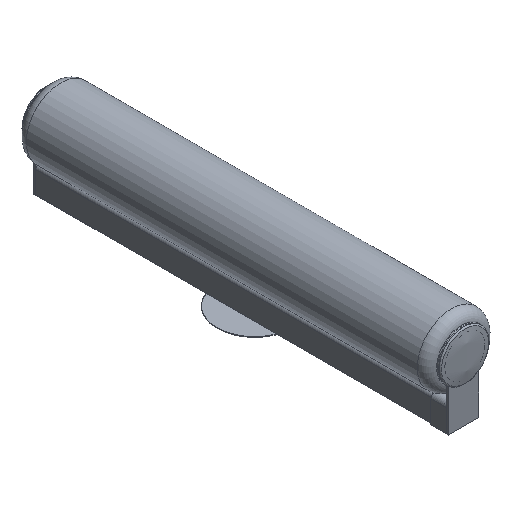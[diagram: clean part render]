
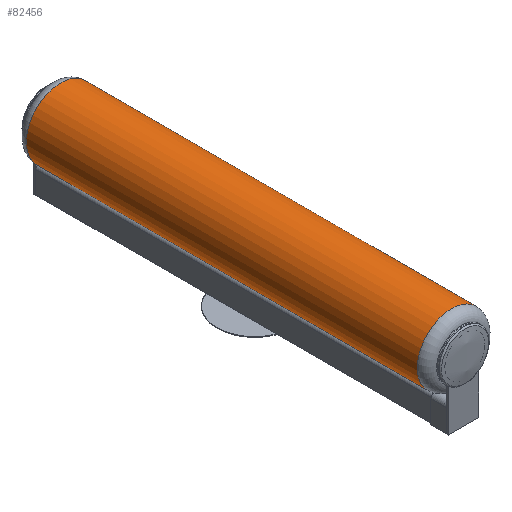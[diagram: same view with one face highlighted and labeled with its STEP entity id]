
A CAD part, isometric view. The second image highlights one B-rep face of the part: STEP entity #82456.
In plain terms, the highlighted cylindrical face has radius 50 mm (diameter 100 mm), a full revolution.
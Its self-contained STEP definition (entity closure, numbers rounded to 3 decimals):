
#13915=FACE_OUTER_BOUND('',#18457,.T.);
#18457=EDGE_LOOP('',(#77497,#77498,#77499,#77500,#77501,#77502));
#26098=LINE('',#147581,#33736);
#33736=VECTOR('',#107470,50.);
#35454=CIRCLE('',#88826,50.);
#35455=CIRCLE('',#88827,50.);
#35457=CIRCLE('',#88830,50.);
#35458=CIRCLE('',#88831,50.);
#43056=VERTEX_POINT('',#147572);
#43057=VERTEX_POINT('',#147573);
#43058=VERTEX_POINT('',#147578);
#43059=VERTEX_POINT('',#147579);
#54536=EDGE_CURVE('',#43056,#43057,#35454,.T.);
#54537=EDGE_CURVE('',#43057,#43056,#35455,.T.);
#54539=EDGE_CURVE('',#43058,#43059,#35457,.T.);
#54540=EDGE_CURVE('',#43058,#43056,#26098,.T.);
#54541=EDGE_CURVE('',#43059,#43058,#35458,.T.);
#77497=ORIENTED_EDGE('',*,*,#54539,.F.);
#77498=ORIENTED_EDGE('',*,*,#54540,.T.);
#77499=ORIENTED_EDGE('',*,*,#54536,.T.);
#77500=ORIENTED_EDGE('',*,*,#54537,.T.);
#77501=ORIENTED_EDGE('',*,*,#54540,.F.);
#77502=ORIENTED_EDGE('',*,*,#54541,.F.);
#78287=CYLINDRICAL_SURFACE('',#88829,50.);
#82456=ADVANCED_FACE('',(#13915),#78287,.T.);
#88826=AXIS2_PLACEMENT_3D('',#147574,#107460,#107461);
#88827=AXIS2_PLACEMENT_3D('',#147575,#107462,#107463);
#88829=AXIS2_PLACEMENT_3D('',#147577,#107466,#107467);
#88830=AXIS2_PLACEMENT_3D('',#147580,#107468,#107469);
#88831=AXIS2_PLACEMENT_3D('',#147582,#107471,#107472);
#107460=DIRECTION('center_axis',(1.,0.,0.));
#107461=DIRECTION('ref_axis',(0.,0.,-1.));
#107462=DIRECTION('center_axis',(1.,0.,0.));
#107463=DIRECTION('ref_axis',(0.,0.,-1.));
#107466=DIRECTION('center_axis',(1.,0.,0.));
#107467=DIRECTION('ref_axis',(0.,1.,0.));
#107468=DIRECTION('center_axis',(1.,0.,0.));
#107469=DIRECTION('ref_axis',(0.,0.,-1.));
#107470=DIRECTION('',(-1.,0.,0.));
#107471=DIRECTION('center_axis',(1.,0.,0.));
#107472=DIRECTION('ref_axis',(0.,0.,-1.));
#147572=CARTESIAN_POINT('',(15.,-50.,0.));
#147573=CARTESIAN_POINT('',(15.,0.,50.));
#147574=CARTESIAN_POINT('Origin',(15.,0.,0.));
#147575=CARTESIAN_POINT('Origin',(15.,0.,0.));
#147577=CARTESIAN_POINT('Origin',(300.,0.,0.));
#147578=CARTESIAN_POINT('',(585.,-50.,0.));
#147579=CARTESIAN_POINT('',(585.,0.,50.));
#147580=CARTESIAN_POINT('Origin',(585.,0.,0.));
#147581=CARTESIAN_POINT('',(300.,-50.,0.));
#147582=CARTESIAN_POINT('Origin',(585.,0.,0.));
